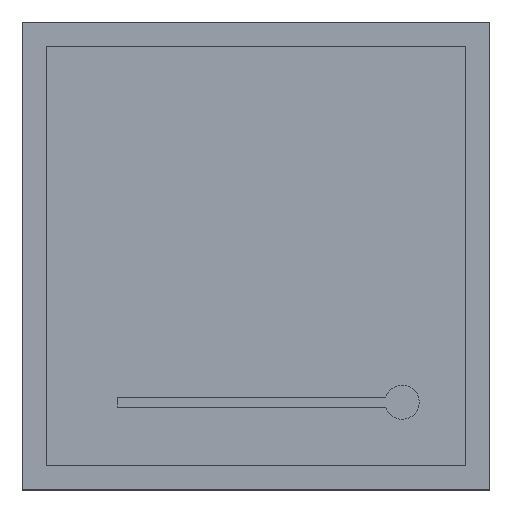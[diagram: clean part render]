
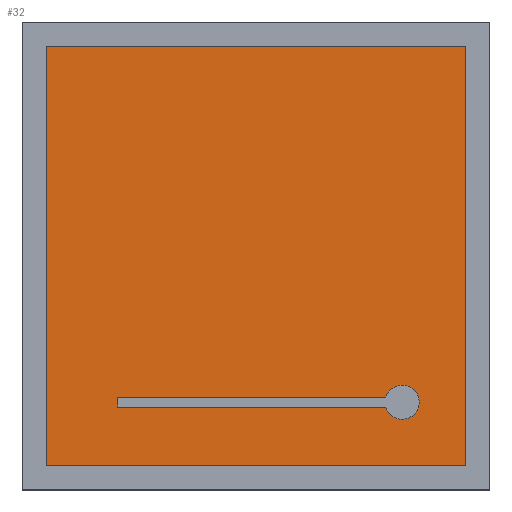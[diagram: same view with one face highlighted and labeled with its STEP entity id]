
A CAD part, top view. The second image highlights one B-rep face of the part: STEP entity #32.
In plain terms, the highlighted planar face has unit normal (0, 0, 1).
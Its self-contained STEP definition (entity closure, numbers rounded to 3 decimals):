
#32 = ADVANCED_FACE ( 'NONE', ( #573 ), #632, .F. ) ;
#43 = VECTOR ( 'NONE', #100, 1000. ) ;
#48 = ORIENTED_EDGE ( 'NONE', *, *, #360, .T. ) ;
#87 = CARTESIAN_POINT ( 'NONE',  ( -48., 48., 5. ) ) ;
#100 = DIRECTION ( 'NONE',  ( 0., 1., 0. ) ) ;
#135 = VERTEX_POINT ( 'NONE', #992 ) ;
#166 = CARTESIAN_POINT ( 'NONE',  ( -48., -48., 5. ) ) ;
#173 = DIRECTION ( 'NONE',  ( 1., 0., 0. ) ) ;
#177 = VERTEX_POINT ( 'NONE', #1013 ) ;
#188 = EDGE_CURVE ( 'NONE', #1074, #951, #378, .T. ) ;
#214 = CARTESIAN_POINT ( 'NONE',  ( 48., -48., 5. ) ) ;
#243 = VECTOR ( 'NONE', #173, 1000. ) ;
#352 = VECTOR ( 'NONE', #1009, 1000. ) ;
#360 = EDGE_CURVE ( 'NONE', #951, #135, #618, .T. ) ;
#378 = LINE ( 'NONE', #87, #352 ) ;
#392 = AXIS2_PLACEMENT_3D ( 'NONE', #1063, #907, #733 ) ;
#538 = VECTOR ( 'NONE', #559, 1000. ) ;
#559 = DIRECTION ( 'NONE',  ( 0., -1., 0. ) ) ;
#573 = FACE_OUTER_BOUND ( 'NONE', #1095, .T. ) ;
#586 = CARTESIAN_POINT ( 'NONE',  ( 48., 48., 5. ) ) ;
#618 = LINE ( 'NONE', #624, #538 ) ;
#624 = CARTESIAN_POINT ( 'NONE',  ( -48., -48., 5. ) ) ;
#632 = PLANE ( 'NONE',  #392 ) ;
#636 = ORIENTED_EDGE ( 'NONE', *, *, #188, .T. ) ;
#652 = CARTESIAN_POINT ( 'NONE',  ( -48., 48., 5. ) ) ;
#733 = DIRECTION ( 'NONE',  ( -1., 0., 0. ) ) ;
#775 = EDGE_CURVE ( 'NONE', #135, #177, #913, .T. ) ;
#840 = LINE ( 'NONE', #214, #43 ) ;
#885 = EDGE_CURVE ( 'NONE', #177, #1074, #840, .T. ) ;
#907 = DIRECTION ( 'NONE',  ( 0., 0., -1. ) ) ;
#913 = LINE ( 'NONE', #166, #243 ) ;
#932 = ORIENTED_EDGE ( 'NONE', *, *, #885, .T. ) ;
#951 = VERTEX_POINT ( 'NONE', #652 ) ;
#992 = CARTESIAN_POINT ( 'NONE',  ( -48., -48., 5. ) ) ;
#1009 = DIRECTION ( 'NONE',  ( -1., 0., 0. ) ) ;
#1013 = CARTESIAN_POINT ( 'NONE',  ( 48., -48., 5. ) ) ;
#1063 = CARTESIAN_POINT ( 'NONE',  ( 0., 0., 5. ) ) ;
#1074 = VERTEX_POINT ( 'NONE', #586 ) ;
#1093 = ORIENTED_EDGE ( 'NONE', *, *, #775, .T. ) ;
#1095 = EDGE_LOOP ( 'NONE', ( #932, #636, #48, #1093 ) ) ;
